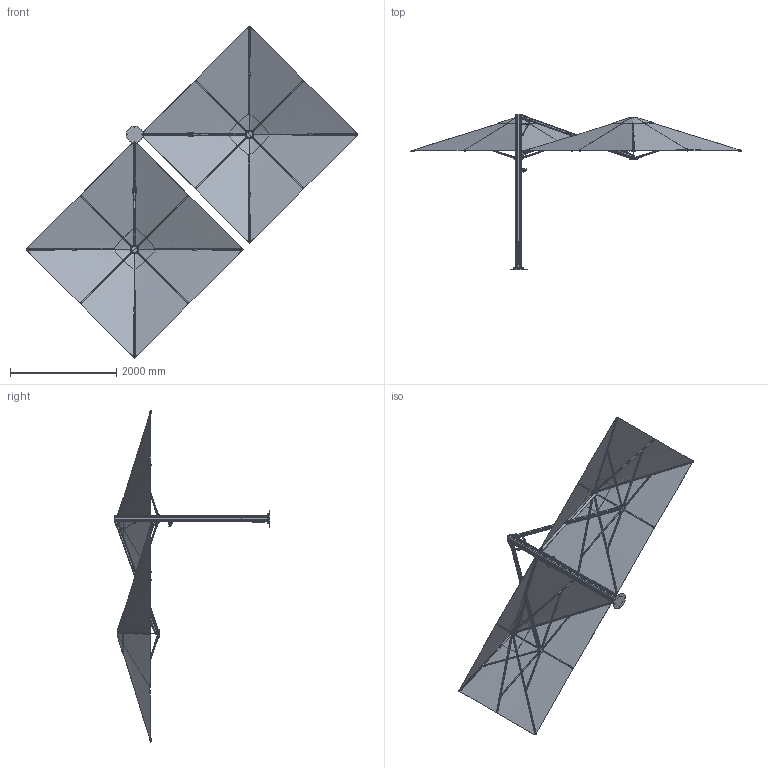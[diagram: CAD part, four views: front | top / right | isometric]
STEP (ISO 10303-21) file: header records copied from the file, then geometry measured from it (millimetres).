
FILE_DESCRIPTION (( 'STEP AP203' ), '1' );
FILE_NAME ('Unity 3M Square Duo.STEP', '2020-06-18T22:54:18', ( '' ), ( '' ), 'SwSTEP 2.0', 'SolidWorks 2017', '' );
FILE_SCHEMA (( 'CONFIG_CONTROL_DESIGN' ));
Length unit declared in the file: millimetre
Products named in the file (51): SMP_UM - 110066; Unity 3M Square Duo; SMP_UM - 110070; SMP_UM - 110075; SMP_UM - 110089; SMP_UM - 210019; SMP_UM - 110131; SMP_UM - 110117; SMP_Um - 110192; socket button head cap screw_am_B18.3.4M - 5 x 0.8 x 20 SBHCS --N; SMP_UM - 110102_Stretched; SMP_UM - 110204; SMP_UM - 110116; SMP_UM - 110169; SMP_UM - 110065; SMP_UM - 210043 - Gastec Spring_Extended; SMP_UM - 110189; SMP_UM - 110191; SMP_UM - 110098; SMP_UM - 110069; SMP_UM - 110064; SMP_UM - 110186; SMP_UM - 110096_PD; SMP_UM - 110171; SMP_UM - 110079; SMP_UM - 110084; SMP_UM - 010020_Canopy Only - Open; SMP_UM - 110313_Default<As Machined>; UM - 210036; SMP_UM - 110112_ALL HOLES; SMP_UM - 110172; SMP_UM - 110190; socket button head cap screw_am_B18.3.4M - 5 x 0.8 x 16 SBHCS --N; SMP_UM - 110085; SMP_UM - 110222; SMP_UM - 110094; SMP_UM - 110170; SMP_UM - 110063; SMP_UM - 110205; SMP_UM - 110088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
Assembly tree (75 placements, depth 4):
  Unity 3M Square Duo
    SMP_UM - 110116
      SMP_UM - 110112_ALL HOLES
    SMP_UM - 110123
      SMP_UM - 110313_Default<As Machined>
    SMP_UM - 110222
    SMP_UM - 110126 (2)
    SMP_UM - 010020_Canopy Only - Open  x2
      SMP_UM - 110169
        SMP_UM - 110186
        SMP_UM - 110080  x2
      SMP_UM - 110170
        SMP_UM - 110187b
        SMP_UM - 110187
        SMP_UM - 110084
        socket button head cap screw_am_B18.3.4M - 5 x 0.8 x 16 SBHCS --N
        UM - 210036
        SMP_UM - 110085  x2
      SMP_UM - 110064
        SMP_UM - 110092
      SMP_UM - 110063
        SMP_UM - 110092
        SMP_UM - 110093
        SMP_UM - 110094
        SMP_UM - 110110
      SMP_UM - 110171
        SMP_UM - 110189
        SMP_UM - 110089
        SMP_UM - 110088
        flat washer regular_am_B18.22M - Plain washer, 6 mm, regular
        socket button head cap screw_am_B18.3.4M - 5 x 0.8 x 20 SBHCS --N
        SMP_UM - 110131
      SMP_UM - 110204
        SMP_UM - 110190
        SMP_UM - 110089  x2
      SMP_UM - 110066
        SMP_UM - 110098
        SMP_UM - 110075
        SMP_UM - 110096_PD
        SMP_UM - 110102_Stretched
      SMP_UM - 210043 - Gastec Spring_Extended
      SMP_UM - 110205
        SMP_UM - 110191
        SMP_UM - 110089
        SMP_UM - 210019
        SMP_UM - 110088
        flat washer regular_am_B18.22M - Plain washer, 6 mm, regular
        socket button head cap screw_am_B18.3.4M - 5 x 0.8 x 20 SBHCS --N
        SMP_UM - 110131
      SMP_UM - 110172
        SMP_Um - 110192
        SMP_UM - 110089  x2
      SMP_UM - 110168
        SMP_UM - 110075
        SMP_UM - 110079
      SMP_UM - 010263_3M SQR
    SMP_UM - 110117
    SMP_UM - 110065  x2
      SMP_UM - 110070
      SMP_UM - 110069
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Bounding box: 6248.34 x 2932.5 x 6248.35 mm (x, y, z)
Volume: 83389153 mm3; surface area: 46505596 mm2
Topology: 191 solids, 195 shells, 3718 faces, 9020 edges, 5704 vertices
Faces by surface type: plane 1196, cylinder 1108, bspline 650, cone 548, torus 166, sphere 50
Entity records: 74465 total; most frequent: CARTESIAN_POINT 44897, ORIENTED_EDGE 5258, DIRECTION 4461, EDGE_CURVE 2629, AXIS2_PLACEMENT_3D 1762, VERTEX_POINT 1636, EDGE_LOOP 1123, ADVANCED_FACE 1082
